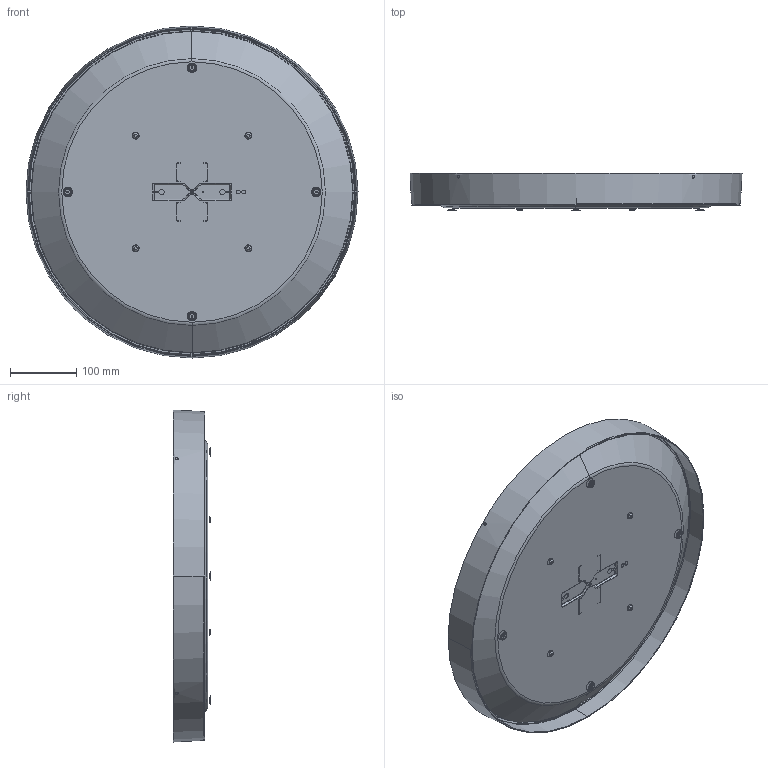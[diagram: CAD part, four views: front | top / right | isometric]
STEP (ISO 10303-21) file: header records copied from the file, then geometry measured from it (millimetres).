
FILE_DESCRIPTION((''),'2;1');
FILE_NAME('OLA_500_SW0001','2025-07-31T09:08:38',('Piccioli'),(''),'CREO PARAMETRIC BY PTC INC, 2025010','CREO PARAMETRIC BY PTC INC, 2025010','');
FILE_SCHEMA(('CONFIG_CONTROL_DESIGN'));
Length unit declared in the file: millimetre
Products named in the file (1): OLA_500_SW0001
Bounding box: 501 x 56 x 501 mm (x, y, z)
Surface area: 550072.6 mm2 (no closed solid volume)
Topology: 0 solids, 42 shells, 73 faces, 585 edges, 548 vertices
Faces by surface type: plane 29, cone 21, torus 21, revolution 2
Entity records: 6932 total; most frequent: CARTESIAN_POINT 2644, DIRECTION 937, ORIENTED_EDGE 668, EDGE_CURVE 583, VERTEX_POINT 548, AXIS2_PLACEMENT_3D 397, CIRCLE 326, VECTOR 141
